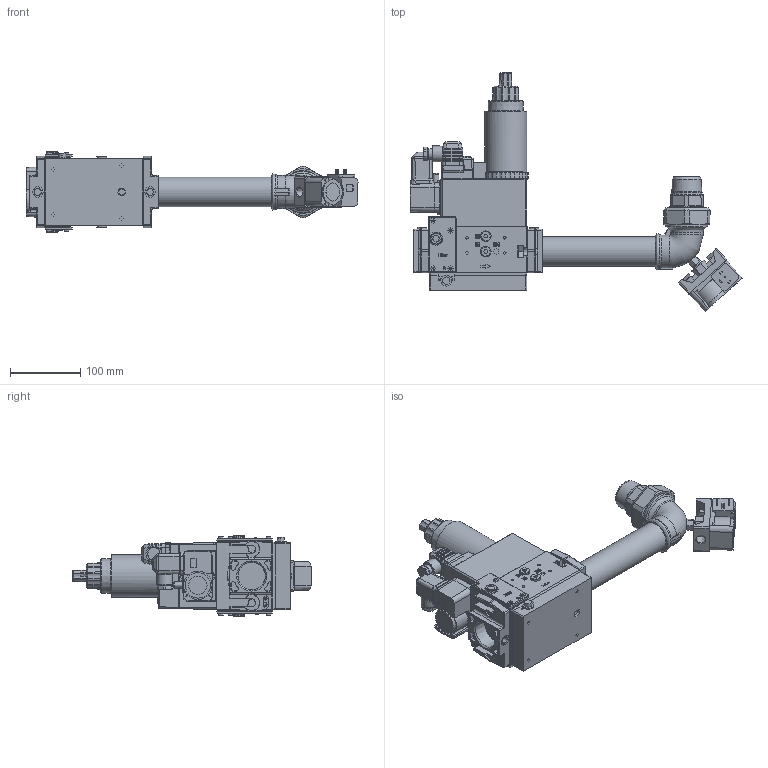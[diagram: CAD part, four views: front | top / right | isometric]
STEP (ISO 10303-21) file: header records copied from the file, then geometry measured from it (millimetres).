
FILE_DESCRIPTION (( 'STEP AP214' ), '1' );
FILE_NAME ('19990707.STEP', '2026-10-09T11:59:06', ( '' ), ( '' ), 'SwSTEP 2.0', 'SolidWorks 2025', '' );
FILE_SCHEMA (( 'AUTOMOTIVE_DESIGN' ));
Length unit declared in the file: millimetre
Products named in the file (1): 19990707
Bounding box: 473.69 x 339.8 x 115 mm (x, y, z)
Volume: 3228545.4 mm3; surface area: 347866.4 mm2
Topology: 13 solids, 13 shells, 3576 faces, 9254 edges, 5905 vertices
Faces by surface type: plane 1649, bspline 856, cylinder 735, torus 180, cone 144, sphere 12
Full cylindrical faces by diameter (mm): 0.7 x2, 1.5 x1, 2 x13, 2.459 x1, 2.5 x2, 3 x1, 4 x1, 4.5 x1, 4.8 x1, 5.391 x4, 6.2 x1, 7 x11, 7.3 x1, 8 x11, 8.8 x1, 9 x2, 9.73 x1, 10.6 x2, 11.359 x1, 12.5 x2, 13 x1, 13.16 x1, 14 x6, 15 x14, 15.2 x1, 15.8 x1, 18 x1, 22.5 x2, 26 x2, 35.9 x1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
Entity records: 148400 total; most frequent: CARTESIAN_POINT 71068, ORIENTED_EDGE 17740, DIRECTION 12375, EDGE_CURVE 8870, VERTEX_POINT 5811, LINE 4575, VECTOR 4575, EDGE_LOOP 4083
